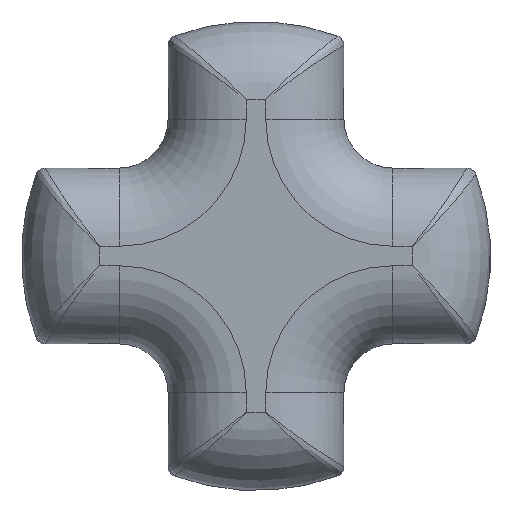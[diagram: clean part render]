
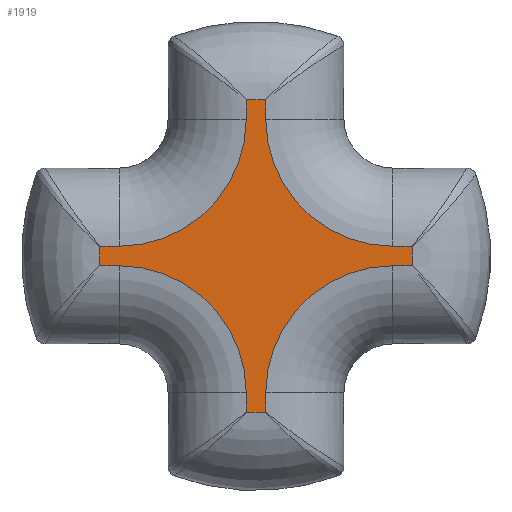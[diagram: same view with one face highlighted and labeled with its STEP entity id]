
A CAD part, front view. The second image highlights one B-rep face of the part: STEP entity #1919.
In plain terms, the highlighted planar face has unit normal (0, -1, 0).
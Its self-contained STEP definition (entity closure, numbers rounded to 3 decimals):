
#93=PLANE('',#2118);
#238=LINE('',#3248,#374);
#239=LINE('',#3253,#375);
#240=LINE('',#3257,#376);
#241=LINE('',#3261,#377);
#242=LINE('',#3265,#378);
#243=LINE('',#3269,#379);
#244=LINE('',#3273,#380);
#245=LINE('',#3277,#381);
#374=VECTOR('',#2585,1000.);
#375=VECTOR('',#2588,1000.);
#376=VECTOR('',#2591,1000.);
#377=VECTOR('',#2594,1000.);
#378=VECTOR('',#2597,1000.);
#379=VECTOR('',#2600,1000.);
#380=VECTOR('',#2603,1000.);
#381=VECTOR('',#2606,1000.);
#606=ORIENTED_EDGE('',*,*,#1166,.T.);
#607=ORIENTED_EDGE('',*,*,#1167,.T.);
#608=ORIENTED_EDGE('',*,*,#1168,.T.);
#609=ORIENTED_EDGE('',*,*,#1169,.T.);
#610=ORIENTED_EDGE('',*,*,#1170,.T.);
#611=ORIENTED_EDGE('',*,*,#1171,.T.);
#612=ORIENTED_EDGE('',*,*,#1172,.T.);
#613=ORIENTED_EDGE('',*,*,#1173,.T.);
#614=ORIENTED_EDGE('',*,*,#1174,.T.);
#615=ORIENTED_EDGE('',*,*,#1175,.T.);
#616=ORIENTED_EDGE('',*,*,#1176,.T.);
#617=ORIENTED_EDGE('',*,*,#1177,.T.);
#618=ORIENTED_EDGE('',*,*,#1178,.T.);
#619=ORIENTED_EDGE('',*,*,#1179,.T.);
#620=ORIENTED_EDGE('',*,*,#1180,.T.);
#621=ORIENTED_EDGE('',*,*,#1181,.T.);
#1166=EDGE_CURVE('',#1430,#1431,#238,.F.);
#1167=EDGE_CURVE('',#1431,#1432,#1510,.F.);
#1168=EDGE_CURVE('',#1432,#1433,#239,.F.);
#1169=EDGE_CURVE('',#1433,#1434,#1511,.T.);
#1170=EDGE_CURVE('',#1434,#1435,#240,.F.);
#1171=EDGE_CURVE('',#1435,#1436,#1512,.F.);
#1172=EDGE_CURVE('',#1436,#1437,#241,.F.);
#1173=EDGE_CURVE('',#1437,#1438,#1513,.T.);
#1174=EDGE_CURVE('',#1438,#1439,#242,.F.);
#1175=EDGE_CURVE('',#1439,#1440,#1514,.F.);
#1176=EDGE_CURVE('',#1440,#1441,#243,.F.);
#1177=EDGE_CURVE('',#1441,#1442,#1515,.T.);
#1178=EDGE_CURVE('',#1442,#1443,#244,.F.);
#1179=EDGE_CURVE('',#1443,#1444,#1516,.F.);
#1180=EDGE_CURVE('',#1444,#1445,#245,.F.);
#1181=EDGE_CURVE('',#1445,#1430,#1517,.T.);
#1430=VERTEX_POINT('',#3249);
#1431=VERTEX_POINT('',#3250);
#1432=VERTEX_POINT('',#3252);
#1433=VERTEX_POINT('',#3254);
#1434=VERTEX_POINT('',#3256);
#1435=VERTEX_POINT('',#3258);
#1436=VERTEX_POINT('',#3260);
#1437=VERTEX_POINT('',#3262);
#1438=VERTEX_POINT('',#3264);
#1439=VERTEX_POINT('',#3266);
#1440=VERTEX_POINT('',#3268);
#1441=VERTEX_POINT('',#3270);
#1442=VERTEX_POINT('',#3272);
#1443=VERTEX_POINT('',#3274);
#1444=VERTEX_POINT('',#3276);
#1445=VERTEX_POINT('',#3278);
#1510=CIRCLE('',#2119,1.6);
#1511=CIRCLE('',#2120,1.3);
#1512=CIRCLE('',#2121,1.6);
#1513=CIRCLE('',#2122,1.3);
#1514=CIRCLE('',#2123,1.6);
#1515=CIRCLE('',#2124,1.3);
#1516=CIRCLE('',#2125,1.6);
#1517=CIRCLE('',#2126,1.3);
#1611=EDGE_LOOP('',(#606,#607,#608,#609,#610,#611,#612,#613,#614,#615,#616,
#617,#618,#619,#620,#621));
#1733=FACE_BOUND('',#1611,.T.);
#1919=ADVANCED_FACE('',(#1733),#93,.F.);
#2118=AXIS2_PLACEMENT_3D('',#3247,#2583,#2584);
#2119=AXIS2_PLACEMENT_3D('',#3251,#2586,#2587);
#2120=AXIS2_PLACEMENT_3D('',#3255,#2589,#2590);
#2121=AXIS2_PLACEMENT_3D('',#3259,#2592,#2593);
#2122=AXIS2_PLACEMENT_3D('',#3263,#2595,#2596);
#2123=AXIS2_PLACEMENT_3D('',#3267,#2598,#2599);
#2124=AXIS2_PLACEMENT_3D('',#3271,#2601,#2602);
#2125=AXIS2_PLACEMENT_3D('',#3275,#2604,#2605);
#2126=AXIS2_PLACEMENT_3D('',#3279,#2607,#2608);
#2583=DIRECTION('',(0.,1.,0.));
#2584=DIRECTION('',(0.,0.,1.));
#2585=DIRECTION('',(0.,0.,1.));
#2586=DIRECTION('',(0.,1.,0.));
#2587=DIRECTION('',(0.,0.,1.));
#2588=DIRECTION('',(0.,0.,-1.));
#2589=DIRECTION('',(0.,1.,0.));
#2590=DIRECTION('',(0.,0.,1.));
#2591=DIRECTION('',(-1.,0.,0.));
#2592=DIRECTION('',(0.,1.,0.));
#2593=DIRECTION('',(0.,0.,1.));
#2594=DIRECTION('',(1.,0.,0.));
#2595=DIRECTION('',(0.,1.,0.));
#2596=DIRECTION('',(0.,0.,1.));
#2597=DIRECTION('',(0.,0.,-1.));
#2598=DIRECTION('',(0.,1.,0.));
#2599=DIRECTION('',(0.,0.,1.));
#2600=DIRECTION('',(0.,0.,1.));
#2601=DIRECTION('',(0.,1.,0.));
#2602=DIRECTION('',(0.,0.,1.));
#2603=DIRECTION('',(1.,0.,0.));
#2604=DIRECTION('',(0.,1.,0.));
#2605=DIRECTION('',(0.,0.,1.));
#2606=DIRECTION('',(-1.,0.,0.));
#2607=DIRECTION('',(0.,1.,0.));
#2608=DIRECTION('',(0.,0.,1.));
#3247=CARTESIAN_POINT('',(0.,0.,0.));
#3248=CARTESIAN_POINT('',(-0.1,0.,0.));
#3249=CARTESIAN_POINT('',(-0.1,0.,-1.4));
#3250=CARTESIAN_POINT('',(-0.1,0.,-1.597));
#3251=CARTESIAN_POINT('',(0.,0.,0.));
#3252=CARTESIAN_POINT('',(0.1,0.,-1.597));
#3253=CARTESIAN_POINT('',(0.1,0.,0.));
#3254=CARTESIAN_POINT('',(0.1,0.,-1.4));
#3255=CARTESIAN_POINT('',(1.4,0.,-1.4));
#3256=CARTESIAN_POINT('',(1.4,0.,-0.1));
#3257=CARTESIAN_POINT('',(0.,0.,-0.1));
#3258=CARTESIAN_POINT('',(1.597,0.,-0.1));
#3259=CARTESIAN_POINT('',(0.,0.,0.));
#3260=CARTESIAN_POINT('',(1.597,0.,0.1));
#3261=CARTESIAN_POINT('',(0.,0.,0.1));
#3262=CARTESIAN_POINT('',(1.4,0.,0.1));
#3263=CARTESIAN_POINT('',(1.4,0.,1.4));
#3264=CARTESIAN_POINT('',(0.1,0.,1.4));
#3265=CARTESIAN_POINT('',(0.1,0.,0.));
#3266=CARTESIAN_POINT('',(0.1,0.,1.597));
#3267=CARTESIAN_POINT('',(0.,0.,0.));
#3268=CARTESIAN_POINT('',(-0.1,0.,1.597));
#3269=CARTESIAN_POINT('',(-0.1,0.,0.));
#3270=CARTESIAN_POINT('',(-0.1,0.,1.4));
#3271=CARTESIAN_POINT('',(-1.4,0.,1.4));
#3272=CARTESIAN_POINT('',(-1.4,0.,0.1));
#3273=CARTESIAN_POINT('',(0.,0.,0.1));
#3274=CARTESIAN_POINT('',(-1.597,0.,0.1));
#3275=CARTESIAN_POINT('',(0.,0.,0.));
#3276=CARTESIAN_POINT('',(-1.597,0.,-0.1));
#3277=CARTESIAN_POINT('',(0.,0.,-0.1));
#3278=CARTESIAN_POINT('',(-1.4,0.,-0.1));
#3279=CARTESIAN_POINT('',(-1.4,0.,-1.4));
